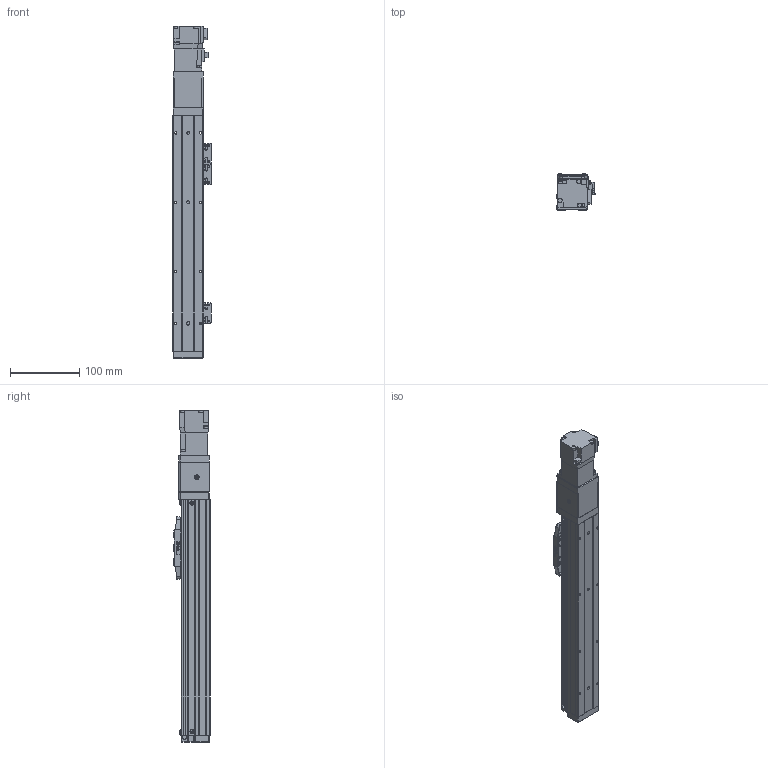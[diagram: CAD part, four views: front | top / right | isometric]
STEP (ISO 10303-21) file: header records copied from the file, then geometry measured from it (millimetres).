
FILE_DESCRIPTION (( 'STEP AP203' ), '1' );
FILE_NAME ('BTH40-200-BC-M05-C4.step', '2021-12-16T00:11:18', ( '微软用户' ), ( '微软中国' ), 'SwSTEP 2.0', 'SolidWorks 2020', '' );
FILE_SCHEMA (( 'CONFIG_CONTROL_DESIGN' ));
Length unit declared in the file: millimetre
Products named in the file (19): BTH40-013; BTH40-003; GBT 70.1-M3℅6; HG-KR13; BTH40-006; GBT96.1-2002 3×0.8; GBT 70.3-M3℅6; BTH-M3X5X6; BTH40-022; BTH40-017; GBT70.1-2000 M3×16; BTH40-005-1; BTH50-028; GBT 70.1-M2.5×6; BTH40-200-BC-M05-C4; BTH50-023; BTH40-004; BTH40-001-50_BTH40-001-200; BTH50-024
Assembly tree (49 placements, depth 2):
  BTH40-200-BC-M05-C4
    BTH40-001-50_BTH40-001-200
    BTH40-003
    BTH40-006
    BTH-M3X5X6  x10
    GBT70.1-2000 M3×16  x4
    BTH50-028  x2
    BTH50-023  x3
    BTH50-024  x3
    GBT 70.1-M3℅6  x6
    GBT96.1-2002 3×0.8  x6
    BTH40-022
    GBT 70.1-M2.5×6  x2
    BTH40-004
    BTH40-013
    HG-KR13
    GBT 70.3-M3℅6  x4
    BTH40-017
    BTH40-005-1
Bounding box: 55.2 x 52 x 479.4 mm (x, y, z)
Volume: 771038 mm3; surface area: 166186.2 mm2
Topology: 51 solids, 51 shells, 1950 faces, 4585 edges, 2836 vertices
Faces by surface type: plane 1088, cylinder 453, cone 257, torus 132, bspline 16, sphere 4
Entity records: 37391 total; most frequent: CARTESIAN_POINT 6766, DIRECTION 5860, ORIENTED_EDGE 5632, EDGE_CURVE 2816, VECTOR 2002, LINE 2002, AXIS2_PLACEMENT_3D 1929, VERTEX_POINT 1767
